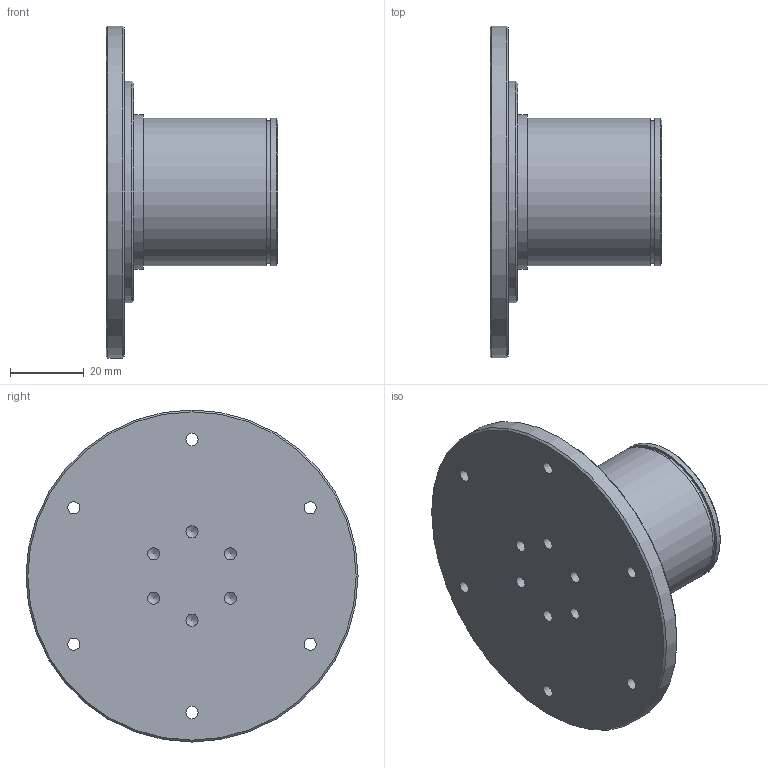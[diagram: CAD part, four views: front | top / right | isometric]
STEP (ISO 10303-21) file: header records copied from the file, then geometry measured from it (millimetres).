
FILE_DESCRIPTION (( 'STEP AP214' ), '1' );
FILE_NAME ('RO100-聆彸蛌粣馱蚾.STEP', '2025-03-25T05:46:40', ( '' ), ( '' ), 'SwSTEP 2.0', 'SolidWorks 2020', '' );
FILE_SCHEMA (( 'AUTOMOTIVE_DESIGN' ));
Length unit declared in the file: millimetre
Products named in the file (1): RO100-聆彸蛌粣馱蚾
Bounding box: 46.6 x 90 x 90 mm (x, y, z)
Volume: 87256 mm3; surface area: 20348.1 mm2
Topology: 1 solids, 1 shells, 37 faces, 79 edges, 50 vertices
Faces by surface type: cylinder 19, cone 10, plane 8
Full cylindrical faces by diameter (mm): 3.3 x12, 6 x1, 38.52 x1, 40 x2, 42 x1, 60 x1, 90 x1
Entity records: 984 total; most frequent: DIRECTION 160, CARTESIAN_POINT 122, EDGE_LOOP 84, ORIENTED_EDGE 84, AXIS2_PLACEMENT_3D 80, FACE_OUTER_BOUND 56, EDGE_CURVE 42, VERTEX_POINT 42
